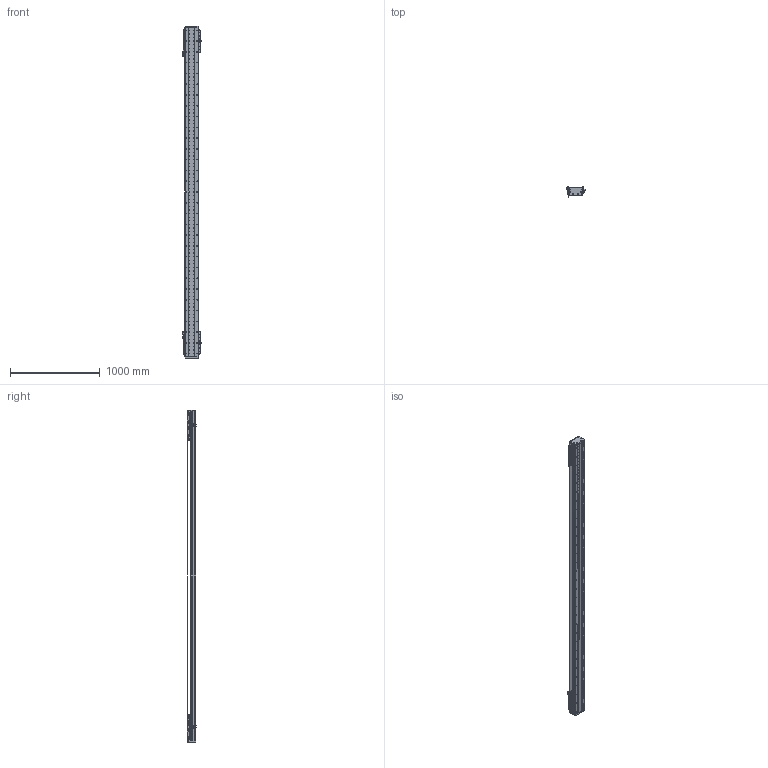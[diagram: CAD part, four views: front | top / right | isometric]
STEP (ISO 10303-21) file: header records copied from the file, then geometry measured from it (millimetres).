
FILE_DESCRIPTION (( 'STEP AP203' ), '1' );
FILE_NAME ('DA-C145-2-C3-T3080-C010-0.2 眻盄萇儂.STEP', '2025-08-14T00:39:49', ( '' ), ( '' ), 'SwSTEP 2.0', 'SolidWorks 2019', '' );
FILE_SCHEMA (( 'CONFIG_CONTROL_DESIGN' ));
Length unit declared in the file: millimetre
Products named in the file (38): CU145-W 幗紩賑怢; 复件 纯铜油杯 6x6mm^CU145-W 滚珠滑台; 复件 DA95-MFP-01 密封片^CU145-W 滚珠滑台; CU145-W 幗紩賑怢-1; 复件 DA145 钢带^复件 CU145 钢带组件_DA-C145-2-C3-T-C010-0.2; 葩璃 DA145-C3-DP-B-00 菜えB^CU145-W 幗紩賑怢; 葩璃 CKMA01-W060-TRL^DA-C145-2-C3-T-C010-0.2; 葩璃 PM-Y65^DA-C145-2-C3-T-C010-0.2; 葩璃 CU145 詩湍郪璃^DA-C145-2-C3-T-C010-0.2; 复件 DA146 钢带拉块^复件 CU145 钢带组件_DA-C145-2-C3-T-C010-0.2; 复件 DA145-C3-DK-00 挡块^CU145-W 滚珠滑台; 复件 DA95-DB-00  挡板^CU145-W 滚珠滑台; DKW-KGZ-ZJ-00 中间光电开关支架; 葩璃 DMA-010-0.2 黍杅芛^DA-C145-2-C3-T-C010-0.2; 葩璃 DA95-HXJ-00 遣喳砎蝶^DA-C145-2-C3-T-C010-0.2; DKW-GYP-ZJ-00 笢潔嫖萇覜茼え; 复件 内六角平端紧定螺钉 GB.T77-2000 M5×10^CU145-W 滚珠滑台; 葩璃 鞠褒情蹟譫 M3^DA-C145-2-C3-T-C010-0.2; 葩璃 XD-U-02L 棠掑喜^DA-C145-2-C3-T-C010-0.2; 复件 DA145-C3-YB-A-00 压板A^CU145-W 滚珠滑台; IU-CU145-L-00 菁釱(L3660); DKW168-HXJ-ZJ-00 笢潔滅袉砎蝶; 葩璃 PM-T45^DA-C145-2-C3-T-C010-0.2; 66245-CU145-HT-W-00 賑雄怢啣(3D芞祧)(00); 复件 DA145-GYP-00 光电感应片^DA-C145-2-C3-T-C010-0.2; 复件 DA146 钢带垫块^复件 CU145 钢带组件_DA-C145-2-C3-T-C010-0.2; TAY01-M8; IU-CU145-L 菁釱絳寢; CU145-W-00 珨极趙賑雄怢啣; 复件 DA145-DG 钢带端盖^复件 CU145 钢带组件_DA-C145-2-C3-T-C010-0.2; DA-C145-2-C3-T3080-C010-0.2 眻盄萇儂; 复件 DA145-C3-YB-B-00 压板B^CU145-W 滚珠滑台; 复件 DA95-HK-GT-00 滑块钢轨^CU145-W-00 一体化滑动台板; 葩璃 CKM03-W060-C1C2-TP-0.2^DA-C145-2-C3-T-C010-0.2; 复件 半圆头内六角螺钉 M3×6^CU145-W 滚珠滑台; CU145-W-00 珨极趙賑雄怢啣-1; 葩璃 DA145-C3-DP-A-00 菜えA^CU145-W 幗紩賑怢; 葩璃 DA95-GT-T-00^IU-CU145-L 菁釱絳寢
Assembly tree (180 placements, depth 4):
  DA-C145-2-C3-T3080-C010-0.2 眻盄萇儂
    IU-CU145-L 菁釱絳寢
      IU-CU145-L-00 菁釱(L3660)
      葩璃 DA95-GT-T-00^IU-CU145-L 菁釱絳寢  x4
    葩璃 CU145 詩湍郪璃^DA-C145-2-C3-T-C010-0.2
      复件 DA145-DG 钢带端盖^复件 CU145 钢带组件_DA-C145-2-C3-T-C010-0.2  x2
      复件 DA146 钢带拉块^复件 CU145 钢带组件_DA-C145-2-C3-T-C010-0.2  x2
      复件 DA146 钢带垫块^复件 CU145 钢带组件_DA-C145-2-C3-T-C010-0.2  x2
      复件 DA145 钢带^复件 CU145 钢带组件_DA-C145-2-C3-T-C010-0.2
    CU145-W 幗紩賑怢
      CU145-W-00 珨极趙賑雄怢啣
        66245-CU145-HT-W-00 賑雄怢啣(3D芞祧)(00)
        复件 DA95-HK-GT-00 滑块钢轨^CU145-W-00 一体化滑动台板  x8
      复件 DA95-MFP-01 密封片^CU145-W 滚珠滑台  x8
      复件 DA95-DB-00  挡板^CU145-W 滚珠滑台  x8
      复件 内六角平端紧定螺钉 GB.T77-2000 M5×10^CU145-W 滚珠滑台  x4
      复件 纯铜油杯 6x6mm^CU145-W 滚珠滑台  x4
      复件 半圆头内六角螺钉 M3×6^CU145-W 滚珠滑台  x16
      复件 DA145-C3-DK-00 挡块^CU145-W 滚珠滑台  x4
      葩璃 DA145-C3-DP-B-00 菜えB^CU145-W 幗紩賑怢  x2
      复件 DA145-C3-YB-B-00 压板B^CU145-W 滚珠滑台  x2
      葩璃 DA145-C3-DP-A-00 菜えA^CU145-W 幗紩賑怢  x3
      复件 DA145-C3-YB-A-00 压板A^CU145-W 滚珠滑台  x3
      TAY01-M8  x4
    CU145-W 幗紩賑怢-1
      CU145-W-00 珨极趙賑雄怢啣-1
        66245-CU145-HT-W-00 賑雄怢啣(3D芞祧)(00)
        复件 DA95-HK-GT-00 滑块钢轨^CU145-W-00 一体化滑动台板  x8
      复件 DA95-MFP-01 密封片^CU145-W 滚珠滑台  x8
      复件 DA95-DB-00  挡板^CU145-W 滚珠滑台  x8
      复件 内六角平端紧定螺钉 GB.T77-2000 M5×10^CU145-W 滚珠滑台  x4
      复件 纯铜油杯 6x6mm^CU145-W 滚珠滑台  x4
      复件 半圆头内六角螺钉 M3×6^CU145-W 滚珠滑台  x16
      复件 DA145-C3-DK-00 挡块^CU145-W 滚珠滑台  x4
      葩璃 DA145-C3-DP-B-00 菜えB^CU145-W 幗紩賑怢  x2
      复件 DA145-C3-YB-B-00 压板B^CU145-W 滚珠滑台  x2
      葩璃 DA145-C3-DP-A-00 菜えA^CU145-W 幗紩賑怢  x3
      复件 DA145-C3-YB-A-00 压板A^CU145-W 滚珠滑台  x3
      TAY01-M8  x4
    葩璃 CKMA01-W060-TRL^DA-C145-2-C3-T-C010-0.2
    葩璃 PM-T45^DA-C145-2-C3-T-C010-0.2  x4
    葩璃 XD-U-02L 棠掑喜^DA-C145-2-C3-T-C010-0.2
    葩璃 DA95-HXJ-00 遣喳砎蝶^DA-C145-2-C3-T-C010-0.2  x4
    葩璃 CKM03-W060-C1C2-TP-0.2^DA-C145-2-C3-T-C010-0.2  x2
    葩璃 DMA-010-0.2 黍杅芛^DA-C145-2-C3-T-C010-0.2  x2
    复件 DA145-GYP-00 光电感应片^DA-C145-2-C3-T-C010-0.2  x2
    DKW-GYP-ZJ-00 笢潔嫖萇覜茼え
    DKW-KGZ-ZJ-00 中间光电开关支架
    葩璃 PM-Y65^DA-C145-2-C3-T-C010-0.2
    葩璃 鞠褒情蹟譫 M3^DA-C145-2-C3-T-C010-0.2  x8
    DKW168-HXJ-ZJ-00 笢潔滅袉砎蝶
Bounding box: 213.7 x 108.45 x 3696 mm (x, y, z)
Volume: 18404935.6 mm3; surface area: 6021278.2 mm2
Topology: 175 solids, 239 shells, 7996 faces, 22287 edges, 13877 vertices
Faces by surface type: cylinder 3687, plane 2969, cone 1184, torus 140, sphere 8, bspline 8
Entity records: 166566 total; most frequent: CARTESIAN_POINT 51332, ORIENTED_EDGE 23260, DIRECTION 21527, EDGE_CURVE 11630, AXIS2_PLACEMENT_3D 7963, VERTEX_POINT 7576, VECTOR 5601, LINE 5601
